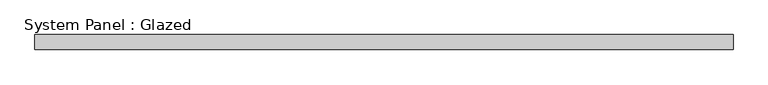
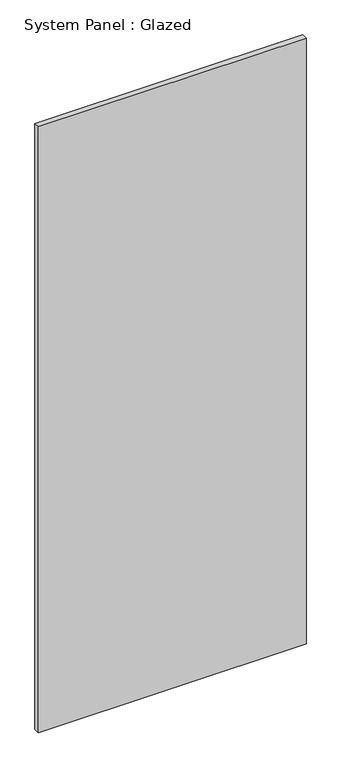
"""IFC4 building model written with IfcOpenShell, lengths in millimetres: plate geometry, System Panel : Glazed."""

from ifc_helpers import new_model, si_unit, origin, origin_with_axes, place, context, project, spatial, polyline, outline, extrude, source, transform, mapped, element, save


def system_panel_glazed_bae89f2f(model_context):
    return source(origin(), model_context, "Body", "SweptSolid", [
        extrude(outline(polyline([(584.9999998, -25.0), (-584.9999998, -25.0), (-584.9999998, 0.0), (584.9999998, 0.0), (584.9999998, -25.0)])), origin_with_axes(), (0.0, 0.0, 1.0), 2800.0),
    ])


if __name__ == "__main__":
    model = new_model("IFC4")
    model_context = context("Model", 3, world=origin())
    ifc_project = project(units=[si_unit("LENGTHUNIT", "METRE", prefix="MILLI")], contexts=[model_context])
    site = spatial("IfcSite", under=ifc_project)
    building = spatial("IfcBuilding", under=site)
    placement = place(None, origin())
    system_panel_glazed_shape = system_panel_glazed_bae89f2f(model_context)
    element("IfcPlate", 1, ObjectType="System Panel : Glazed", at=placement, inside=building, context=model_context, shape_type="MappedRepresentation", body=[
        mapped(system_panel_glazed_shape, transform((0.0, 0.0, 0.0), x_axis=(1.0, 0.0, 0.0), y_axis=(0.0, 1.0, 0.0), z_axis=(0.0, 0.0, 1.0))),
    ])
    save(model, "model.ifc")
